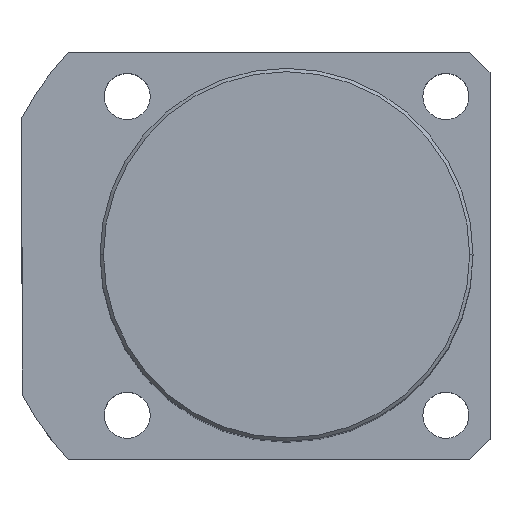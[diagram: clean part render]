
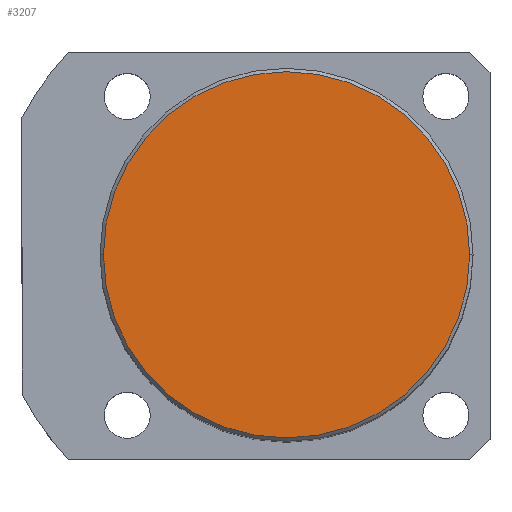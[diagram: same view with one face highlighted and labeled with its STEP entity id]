
A CAD part, top view. The second image highlights one B-rep face of the part: STEP entity #3207.
In plain terms, the highlighted planar face has unit normal (0, 0, 1).
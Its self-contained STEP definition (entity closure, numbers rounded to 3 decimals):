
#98 = DIRECTION ( 'NONE',  ( 0., 0., 1. ) ) ;
#322 = AXIS2_PLACEMENT_3D ( 'NONE', #2413, #862, #3591 ) ;
#371 = VERTEX_POINT ( 'NONE', #2226 ) ;
#457 = PLANE ( 'NONE',  #322 ) ;
#862 = DIRECTION ( 'NONE',  ( 0., 0., 1. ) ) ;
#1113 = DIRECTION ( 'NONE',  ( 0., 0., 1. ) ) ;
#1147 = ORIENTED_EDGE ( 'NONE', *, *, #4195, .T. ) ;
#2223 = EDGE_LOOP ( 'NONE', ( #1147, #2491 ) ) ;
#2226 = CARTESIAN_POINT ( 'NONE',  ( 27., 0., 100. ) ) ;
#2354 = AXIS2_PLACEMENT_3D ( 'NONE', #3459, #1113, #3852 ) ;
#2413 = CARTESIAN_POINT ( 'NONE',  ( 0., 0., 100. ) ) ;
#2440 = CARTESIAN_POINT ( 'NONE',  ( 0., 0., 100. ) ) ;
#2491 = ORIENTED_EDGE ( 'NONE', *, *, #2758, .T. ) ;
#2758 = EDGE_CURVE ( 'NONE', #371, #4906, #4119, .T. ) ;
#2860 = DIRECTION ( 'NONE',  ( 1., 0., 0. ) ) ;
#2900 = FACE_OUTER_BOUND ( 'NONE', #2223, .T. ) ;
#3111 = CIRCLE ( 'NONE', #4626, 27. ) ;
#3207 = ADVANCED_FACE ( 'NONE', ( #2900 ), #457, .T. ) ;
#3459 = CARTESIAN_POINT ( 'NONE',  ( 0., 0., 100. ) ) ;
#3591 = DIRECTION ( 'NONE',  ( 1., 0., 0. ) ) ;
#3852 = DIRECTION ( 'NONE',  ( 1., 0., 0. ) ) ;
#4119 = CIRCLE ( 'NONE', #2354, 27. ) ;
#4195 = EDGE_CURVE ( 'NONE', #4906, #371, #3111, .T. ) ;
#4515 = CARTESIAN_POINT ( 'NONE',  ( -27., 0., 100. ) ) ;
#4626 = AXIS2_PLACEMENT_3D ( 'NONE', #2440, #98, #2860 ) ;
#4906 = VERTEX_POINT ( 'NONE', #4515 ) ;
